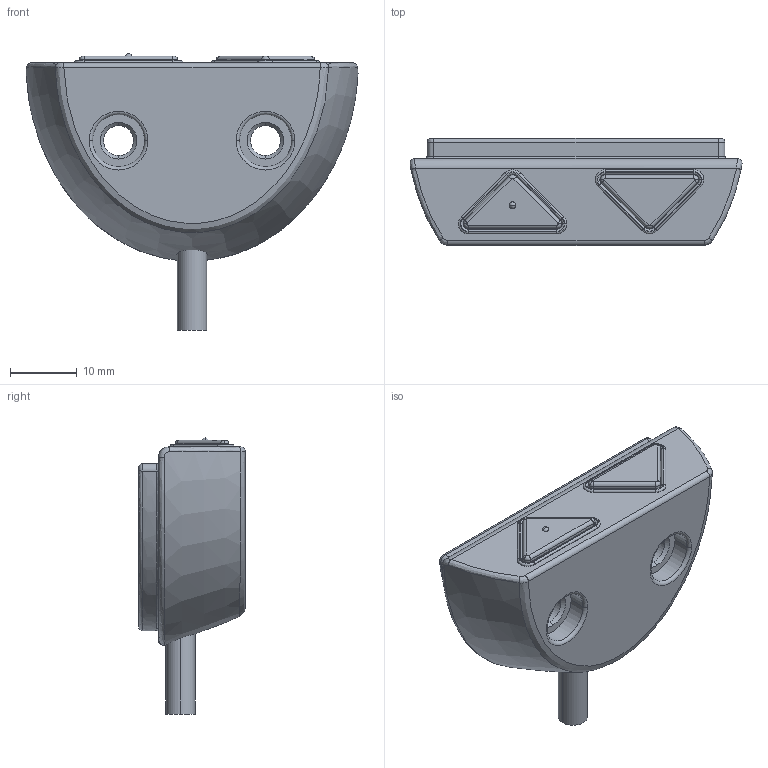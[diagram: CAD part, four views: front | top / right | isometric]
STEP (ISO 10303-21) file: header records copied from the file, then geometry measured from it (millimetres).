
FILE_DESCRIPTION (( 'STEP AP203' ), '1' );
FILE_NAME ('TH37¹êÅé¹Ï.STEP', '2014-10-06T00:42:28', ( '' ), ( '' ), 'SwSTEP 2.0', 'SolidWorks 2010', '' );
FILE_SCHEMA (( 'CONFIG_CONTROL_DESIGN' ));
Length unit declared in the file: millimetre
Products named in the file (1): TH37實體圖
Bounding box: 49.71 x 16 x 41.35 mm (x, y, z)
Volume: 14821.2 mm3; surface area: 5932.2 mm2
Topology: 1 solids, 3 shells, 200 faces, 470 edges, 292 vertices
Faces by surface type: cylinder 68, plane 66, torus 44, bspline 14, cone 8
Entity records: 10472 total; most frequent: CARTESIAN_POINT 5750, DIRECTION 1022, ORIENTED_EDGE 940, EDGE_CURVE 470, AXIS2_PLACEMENT_3D 419, VERTEX_POINT 292, CIRCLE 232, EDGE_LOOP 220
